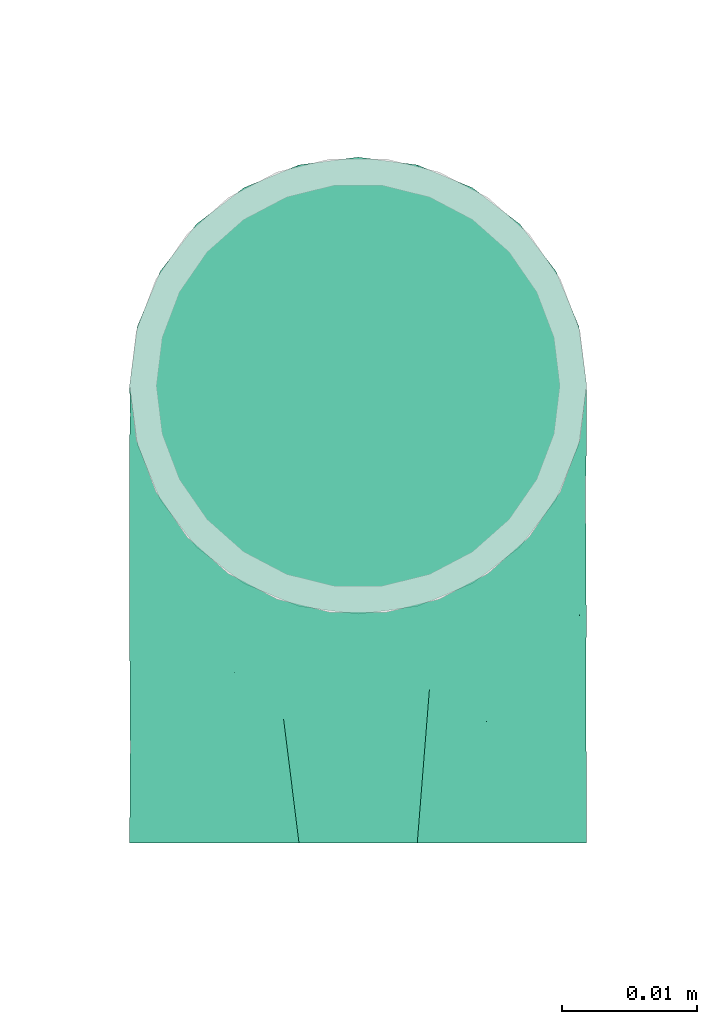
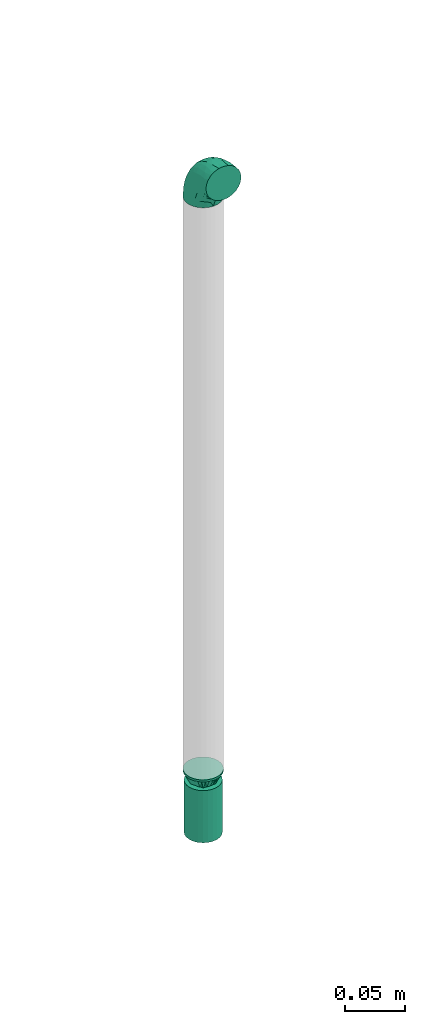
# One storey, part 32 of 94: 2 flow fittings, 1 flow terminal.
"""IFC2X3 building model written with IfcOpenShell, lengths in millimetres."""

from ifc_helpers import new_model, entity, si_unit, converted_unit, derived_unit, direction, frame, origin_with_axes, place, context, subcontext, project, spatial, open_shell, surface_model, source, transform, mapped, type_object, element, save


model = new_model("IFC2X3")

# Units and contexts
model_context = context("Model", 3, precision=0.01, world=frame((0.0, 4.29681676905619e-09, 0.0)), true_north=direction((4.01073788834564e-13, 1.0)))
plan_context = context("Plan", 3, precision=0.01, world=frame((0.0, 4.29681676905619e-09, 0.0)), true_north=direction((4.01073788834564e-13, 1.0)))
body_context = subcontext(model_context, "Body", "Model", "MODEL_VIEW")
ifc_project = project(units=[converted_unit("PLANEANGLEUNIT", "DEGREE", entity("IfcPositiveLengthMeasure", 0.0174532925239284), si_unit("PLANEANGLEUNIT", "RADIAN"), dimensions=[0, 0, 0, 0, 0, 0, 0]), si_unit("AREAUNIT", "SQUARE_METRE"), si_unit("LENGTHUNIT", "METRE", prefix="MILLI"), si_unit("MASSUNIT", "GRAM", prefix="KILO"), si_unit("POWERUNIT", "WATT"), si_unit("PRESSUREUNIT", "PASCAL", prefix="KILO"), si_unit("FORCEUNIT", "NEWTON", prefix="KILO"), si_unit("ELECTRICVOLTAGEUNIT", "VOLT"), si_unit("ELECTRICCURRENTUNIT", "AMPERE"), si_unit("THERMODYNAMICTEMPERATUREUNIT", "DEGREE_CELSIUS"), si_unit("TIMEUNIT", "SECOND"), si_unit("VOLUMEUNIT", "CUBIC_METRE"), derived_unit("LINEARVELOCITYUNIT", [(si_unit("LENGTHUNIT", "METRE"), 1), (si_unit("TIMEUNIT", "SECOND"), -1)]), derived_unit("VOLUMETRICFLOWRATEUNIT", [(si_unit("VOLUMEUNIT", "CUBIC_METRE"), 1), (si_unit("TIMEUNIT", "SECOND"), -1)]), derived_unit("THERMALTRANSMITTANCEUNIT", [(si_unit("POWERUNIT", "WATT"), 1), (si_unit("THERMODYNAMICTEMPERATUREUNIT", "KELVIN"), -1), (si_unit("AREAUNIT", "SQUARE_METRE"), -1)]), derived_unit("SOUNDPRESSUREUNIT", [(si_unit("PRESSUREUNIT", "PASCAL"), 1)])], contexts=[model_context, plan_context])

# Site, building, storey
site_placement = place(None, frame((0.0, -4.29681676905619e-09, 0.0), z_axis=(0.0, 0.0, 1.0), x_axis=(1.0, 0.0, 0.0)))
site = spatial("IfcSite", under=ifc_project, at=site_placement, CompositionType="ELEMENT")
building_placement = place(site_placement, frame((0.0, 4.29681676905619e-09, 0.0), z_axis=(0.0, 0.0, 1.0), x_axis=(1.0, 0.0, 0.0)))
building = spatial("IfcBuilding", under=site, at=building_placement, Name="mc-building", CompositionType="ELEMENT")
storey_placement = place(building_placement, frame((0.0, 0.0, 210900.0), z_axis=(0.0, 0.0, 1.0), x_axis=(1.0, 0.0, 0.0)))
storey = spatial("IfcBuildingStorey", under=building, at=storey_placement, Name="Nivå F", CompositionType="ELEMENT", Elevation=210900.0)

# Flow fittings
pipe_fitting_type_1 = type_object("IfcPipeFittingType", Name="magi_pipe_fe_elbow_short_001", PredefinedType="BEND")
shared_shape_1 = source(origin_with_axes(), body_context, "Body", "SurfaceModel", [
    surface_model("IfcShellBasedSurfaceModel", [(-33.8, 8.45, -14.63583), (-33.8, 4.37404, -16.32415), (-33.8, 11.9501, -11.9501), (-33.8, -11.9501, -11.9501), (-33.8, -14.63583, -8.45), (-33.8, -8.45, -14.63583), (-33.8, 0.0, -16.9), (-33.8, -4.37404, -16.32415), (-33.8, -4.37404, 16.32415), (-33.8, 0.0, 16.9), (-33.8, -8.45, 14.63583), (-33.8, 16.32415, -4.37404), (-33.8, 14.63583, -8.45), (-33.8, -16.32415, -4.37404), (-33.8, -16.9, 0.0), (-33.8, -16.32415, 4.37404), (-33.8, 11.9501, 11.9501), (-33.8, 14.63583, 8.45), (-33.8, 16.32415, 4.37404), (-33.8, 4.37404, 16.32415), (-33.8, 8.45, 14.63583), (-33.8, -14.63583, 8.45), (-33.8, -11.9501, 11.9501), (-33.8, 16.9, 0.0), (-11.9501, 33.8, -11.9501), (0.0, 33.8, -16.9), (-4.37404, 33.8, -16.32415), (-8.45, 33.8, -14.63583), (-14.63583, 33.8, -8.45), (-16.32415, 33.8, -4.37404), (14.63583, 33.8, -8.45), (8.45, 33.8, 14.63583), (16.32415, 33.8, -4.37404), (8.45, 33.8, -14.63583), (11.9501, 33.8, -11.9501), (4.37404, 33.8, -16.32415), (16.32415, 33.8, 4.37404), (16.9, 33.8, 0.0), (-11.9501, 33.8, 11.9501), (-16.32415, 33.8, 4.37404), (-14.63583, 33.8, 8.45), (-8.45, 33.8, 14.63583), (-4.37404, 33.8, 16.32415), (11.9501, 33.8, 11.9501), (14.63583, 33.8, 8.45), (0.0, 33.8, 16.9), (4.37404, 33.8, 16.32415), (-16.9, 33.8, 0.0), (-24.79389, -13.12945, 9.48721), (-22.19287, -9.75018, 12.59315), (-24.09897, -14.97035, 0.0), (-14.93934, -10.76256, 8.5297), (-22.46095, -14.75051, 5.27077), (14.75051, 22.46094, 5.27077), (11.9251, 13.23888, 4.33236), (13.04069, 14.39795, 0.0), (7.71387, 13.68847, 11.55891), (9.75018, 22.19287, 12.59315), (4.10169, 13.0571, 14.04018), (-24.84007, -6.39063, 15.2048), (-25.81779, -2.23879, 16.61097), (-23.66549, 2.59054, 16.87119), (-26.50418, 14.06512, 11.08152), (-24.21253, 17.66365, 7.72657), (-29.58514, 15.86957, 7.00283), (-6.17382, -7.5455, 0.0), (-13.23888, -11.9251, 4.33236), (-14.39795, -13.04069, 0.0), (-17.81434, 18.87373, 11.97104), (-6.30846, 29.15138, 15.82987), (-2.31622, 25.28002, 16.85849), (-29.23923, 10.23435, 13.77053), (-1.45439, -2.85688, 7.61475), (-0.28326, 0.34872, 10.09509), (-5.74484, -4.04709, 10.4122), (-4.41137, 11.31918, 16.59407), (-8.39727, 3.10034, 15.7812), (-1.72649, 9.1306, 15.53089), (-17.39909, 24.75344, 7.64977), (-26.19233, 20.0512, 0.0), (-28.14518, 17.29657, 4.25857), (-26.05147, 6.6281, 15.96447), (-5.87354, 16.61944, 16.86968), (-12.51807, 12.51807, 16.48937), (-10.06312, 7.38516, 16.81295), (-3.01882, 3.01882, 13.81718), (-13.0571, -4.10169, 14.04018), (-16.82553, -0.15166, 16.38038), (10.76256, 14.93934, 8.5297), (13.12945, 24.79389, 9.48721), (6.39063, 24.84007, 15.2048), (2.23879, 25.81779, 16.61097), (-13.68847, -7.71387, 11.55891), (14.97035, 24.09897, 0.0), (-7.30894, 22.89991, 16.09489), (-10.67958, 26.17414, 14.008), (-12.78295, 18.26924, 15.06066), (-13.88562, 22.45231, 12.93244), (-18.04944, 15.16501, 14.04434), (-23.11658, 20.08178, 4.02986), (-21.84989, 21.84989, 0.0), (-18.55817, 25.48277, 3.93065), (-13.95142, 26.94732, 11.03289), (-18.57098, 7.23906, 16.59756), (-16.58335, 4.14122, 16.89279), (-17.96666, 11.46709, 15.63151), (-9.84453, 17.54304, 16.18938), (0.15166, 16.82553, 16.38038), (-23.27207, 11.47201, 14.23154), (3.84842, 5.86994, 10.70473), (-8.0212, -7.54413, 7.93275), (1.00345, -2.19508, 4.57414), (5.13203, 3.01004, 5.90201), (5.24161, 1.7543, 2.53265), (8.70457, 7.04947, 3.99182), (-20.0512, 26.19233, 0.0), (8.4852, 8.76699, 7.09296), (-4.55488, -6.72064, 4.90681), (2.05031, -2.05031, 0.0), (7.5455, 6.17382, 0.0), (-26.75399, 2.1369, -16.845), (-14.61995, 24.73803, -11.27736), (-28.45274, -13.45335, -9.81895), (-26.00469, 6.63555, -15.96645), (-23.06726, 20.04573, -4.26202), (-13.80647, -4.26506, -14.17873), (-14.67501, -0.21081, -16.07388), (-6.7902, -0.2828, -13.8478), (-24.53586, 11.08096, -14.13417), (-26.72048, 14.00837, -11.05776), (10.0967, 24.44989, -12.75976), (5.83237, 21.40218, -15.03047), (6.66249, 28.54238, -15.38093), (-20.38182, 15.48705, -12.74596), (12.53268, 21.23441, -9.15363), (12.54494, 15.67504, -5.54878), (9.7522, 12.89279, -8.66343), (-15.65186, 19.64213, -13.01327), (-12.03528, 20.66498, -14.67665), (-15.61907, 15.61906, -14.83879), (-25.56551, -15.26206, 0.0), (-24.65452, -15.12934, -5.50955), (13.45335, 28.45274, -9.81895), (15.12934, 24.65452, -5.50955), (-7.35442, -8.31014, -5.65563), (-15.67504, -12.54494, -5.54878), (-24.44989, -10.0967, -12.75976), (0.16522, 0.41303, -9.71728), (-5.70658, -5.33066, -8.89288), (-5.13869, -2.37198, -11.53565), (-21.23441, -12.53268, -9.15363), (0.71146, 7.93863, -14.09382), (0.21081, 14.67501, -16.07388), (3.49291, 14.42772, -14.76381), (-24.89911, -2.13088, -16.591), (-28.54238, -6.66249, -15.38093), (-18.44386, -7.71663, -13.26957), (2.13088, 24.89911, -16.591), (-28.64342, 17.44413, -2.89318), (1.70017, -1.28722, -5.09504), (-16.57067, 26.81947, -7.36596), (-17.69055, 27.4263, -3.76405), (-12.89279, -9.7522, -8.66343), (-5.96611, 5.96611, -15.95814), (-20.53709, 20.09345, -8.28985), (-2.1369, 26.75399, -16.845), (-6.89872, 24.58781, -16.02578), (-10.60739, 26.53157, -13.98044), (-21.40218, -5.83237, -15.03047), (2.93192, 5.89627, -11.55917), (6.89393, 12.61842, -11.82233), (5.58056, 5.95325, -8.79455), (-3.99512, 18.61798, -16.89635), (8.31014, 7.35442, -5.65563), (-9.1383, 9.86148, -16.89041), (-9.99983, 16.02119, -16.39699), (-16.68576, 9.78031, -16.34199), (-27.01915, 16.61158, -7.12979), (15.26206, 25.56551, 0.0), (-18.61798, 3.99512, -16.89635), (-19.37495, 27.82495, 0.0), (-12.61842, -6.89393, -11.82233), (-18.84705, 19.14018, -10.96545)], [open_shell([[[0, 1, 2]], [[3, 4, 5]], [[6, 7, 5]], [[8, 9, 10]], [[1, 6, 2]], [[11, 12, 2]], [[4, 2, 6]], [[2, 13, 10]], [[5, 4, 6]], [[2, 4, 13]], [[14, 15, 13]], [[11, 2, 16]], [[11, 17, 18]], [[11, 16, 17]], [[19, 20, 16]], [[16, 2, 10]], [[19, 16, 10]], [[21, 22, 15]], [[22, 13, 15]], [[22, 10, 13]], [[10, 9, 19]], [[11, 18, 23]], [[24, 25, 26]], [[24, 26, 27]], [[24, 28, 29]], [[25, 24, 30]], [[31, 32, 24]], [[33, 30, 34]], [[33, 35, 25]], [[25, 30, 33]], [[32, 30, 24]], [[32, 36, 37]], [[38, 24, 29]], [[39, 40, 29]], [[40, 38, 29]], [[38, 41, 42]], [[38, 31, 24]], [[31, 38, 42]], [[36, 43, 44]], [[36, 32, 43]], [[31, 45, 46]], [[32, 31, 43]], [[42, 45, 31]], [[39, 29, 47]], [[22, 48, 49]], [[15, 14, 50]], [[51, 48, 52]], [[53, 54, 55]], [[48, 22, 21]], [[15, 52, 21]], [[56, 57, 58]], [[49, 10, 22]], [[49, 59, 10]], [[9, 60, 61]], [[62, 63, 64]], [[65, 66, 67]], [[57, 43, 31]], [[62, 68, 63]], [[42, 69, 70]], [[20, 71, 16]], [[8, 60, 9]], [[72, 73, 74]], [[75, 76, 77]], [[16, 62, 17]], [[40, 39, 78]], [[79, 23, 80]], [[64, 18, 17]], [[9, 61, 19]], [[19, 81, 20]], [[82, 83, 84]], [[74, 85, 86]], [[59, 86, 87]], [[88, 89, 57]], [[90, 31, 46]], [[44, 53, 36]], [[46, 45, 91]], [[54, 53, 88]], [[44, 89, 53]], [[92, 86, 49]], [[89, 44, 43]], [[10, 59, 8]], [[53, 55, 93]], [[93, 36, 53]], [[66, 52, 67]], [[94, 82, 70]], [[95, 96, 94]], [[97, 98, 96]], [[79, 99, 100]], [[41, 38, 95]], [[101, 100, 99]], [[68, 78, 63]], [[42, 41, 69]], [[23, 18, 80]], [[95, 94, 69]], [[78, 101, 99]], [[38, 102, 95]], [[70, 45, 42]], [[97, 95, 102]], [[15, 50, 52]], [[90, 57, 31]], [[57, 90, 58]], [[81, 19, 61]], [[103, 104, 84]], [[105, 81, 103]], [[38, 40, 102]], [[106, 96, 83]], [[94, 106, 82]], [[91, 70, 107]], [[71, 62, 16]], [[62, 108, 98]], [[86, 59, 49]], [[67, 52, 50]], [[60, 59, 87]], [[92, 49, 51]], [[86, 85, 76]], [[91, 90, 46]], [[37, 36, 93]], [[107, 77, 58]], [[107, 58, 90]], [[58, 85, 109]], [[110, 74, 92]], [[72, 74, 110]], [[66, 51, 52]], [[72, 111, 112]], [[113, 114, 112]], [[56, 88, 57]], [[52, 48, 21]], [[49, 48, 51]], [[57, 89, 43]], [[53, 89, 88]], [[103, 81, 61]], [[71, 81, 108]], [[18, 64, 80]], [[63, 78, 99]], [[47, 115, 101]], [[101, 115, 100]], [[40, 78, 102]], [[68, 102, 78]], [[97, 96, 95]], [[105, 98, 108]], [[103, 84, 83]], [[107, 70, 82]], [[76, 84, 87]], [[82, 84, 75]], [[70, 91, 45]], [[90, 91, 107]], [[59, 60, 8]], [[61, 60, 87]], [[73, 85, 74]], [[109, 112, 116]], [[103, 61, 104]], [[105, 103, 83]], [[96, 105, 83]], [[81, 105, 108]], [[96, 98, 105]], [[62, 98, 68]], [[61, 87, 104]], [[87, 84, 104]], [[86, 76, 87]], [[77, 76, 85]], [[58, 77, 85]], [[75, 77, 107]], [[82, 75, 107]], [[76, 75, 84]], [[81, 71, 20]], [[62, 71, 108]], [[95, 69, 41]], [[70, 69, 94]], [[62, 64, 17]], [[80, 63, 99]], [[63, 80, 64]], [[80, 99, 79]], [[66, 65, 117]], [[110, 66, 117]], [[112, 114, 116]], [[118, 117, 65]], [[110, 92, 51]], [[112, 111, 113]], [[119, 55, 54]], [[74, 86, 92]], [[58, 109, 56]], [[116, 56, 109]], [[66, 110, 51]], [[72, 110, 117]], [[111, 72, 117]], [[73, 112, 109]], [[117, 118, 111]], [[113, 111, 118]], [[118, 119, 113]], [[114, 119, 54]], [[119, 114, 113]], [[116, 54, 88]], [[54, 116, 114]], [[116, 88, 56]], [[112, 73, 72]], [[85, 73, 109]], [[78, 39, 101]], [[47, 101, 39]], [[102, 68, 97]], [[97, 68, 98]], [[82, 106, 83]], [[94, 96, 106]], [[1, 120, 6]], [[28, 24, 121]], [[3, 122, 4]], [[0, 123, 1]], [[100, 124, 79]], [[125, 126, 127]], [[128, 2, 129]], [[130, 131, 132]], [[128, 129, 133]], [[134, 135, 136]], [[137, 138, 139]], [[128, 0, 2]], [[67, 140, 141]], [[134, 142, 143]], [[141, 13, 4]], [[144, 65, 145]], [[146, 3, 5]], [[147, 148, 149]], [[145, 141, 150]], [[151, 152, 153]], [[154, 7, 6]], [[5, 155, 146]], [[150, 146, 156]], [[155, 5, 7]], [[143, 135, 134]], [[35, 157, 25]], [[23, 79, 158]], [[148, 159, 144]], [[160, 161, 29]], [[145, 162, 144]], [[163, 152, 151]], [[29, 28, 160]], [[121, 164, 160]], [[33, 34, 130]], [[25, 165, 26]], [[26, 165, 166]], [[142, 34, 30]], [[24, 27, 167]], [[124, 161, 164]], [[157, 35, 132]], [[155, 154, 168]], [[123, 0, 128]], [[169, 170, 171]], [[172, 157, 152]], [[26, 166, 27]], [[132, 35, 33]], [[142, 130, 34]], [[168, 154, 126]], [[136, 135, 173]], [[133, 137, 139]], [[2, 12, 129]], [[170, 131, 130]], [[30, 32, 143]], [[172, 174, 175]], [[176, 123, 128]], [[158, 177, 11]], [[135, 55, 119]], [[167, 27, 166]], [[175, 166, 172]], [[137, 167, 138]], [[122, 141, 4]], [[140, 14, 13]], [[32, 37, 178]], [[170, 130, 134]], [[152, 157, 131]], [[165, 157, 172]], [[153, 170, 151]], [[152, 163, 174]], [[168, 125, 156]], [[122, 146, 150]], [[120, 154, 6]], [[179, 174, 126]], [[179, 126, 154]], [[126, 163, 127]], [[162, 145, 150]], [[140, 13, 141]], [[32, 178, 143]], [[55, 143, 178]], [[177, 129, 12]], [[128, 133, 139]], [[176, 128, 139]], [[120, 123, 179]], [[121, 160, 28]], [[161, 100, 180]], [[166, 175, 138]], [[121, 24, 167]], [[161, 47, 29]], [[79, 124, 158]], [[124, 164, 177]], [[161, 124, 100]], [[136, 171, 170]], [[127, 163, 151]], [[147, 171, 159]], [[148, 144, 162]], [[127, 151, 169]], [[127, 181, 125]], [[129, 177, 164]], [[12, 11, 177]], [[159, 65, 144]], [[67, 141, 145]], [[143, 55, 135]], [[135, 119, 173]], [[123, 120, 1]], [[154, 120, 179]], [[157, 165, 25]], [[166, 165, 172]], [[172, 152, 174]], [[176, 139, 175]], [[126, 174, 163]], [[176, 174, 179]], [[174, 176, 175]], [[123, 176, 179]], [[150, 181, 162]], [[127, 149, 181]], [[181, 148, 162]], [[159, 148, 147]], [[171, 136, 173]], [[170, 134, 136]], [[159, 171, 173]], [[171, 147, 169]], [[169, 147, 149]], [[151, 170, 169]], [[164, 182, 129]], [[182, 121, 137]], [[181, 149, 148]], [[169, 149, 127]], [[182, 137, 133]], [[167, 137, 121]], [[166, 138, 167]], [[175, 139, 138]], [[129, 182, 133]], [[121, 182, 164]], [[161, 160, 164]], [[47, 161, 180]], [[177, 158, 124]], [[23, 158, 11]], [[130, 132, 33]], [[157, 132, 131]], [[143, 142, 30]], [[130, 142, 134]], [[154, 155, 7]], [[146, 155, 168]], [[146, 122, 3]], [[141, 122, 150]], [[152, 131, 153]], [[159, 119, 118]], [[67, 145, 65]], [[170, 153, 131]], [[119, 159, 173]], [[159, 118, 65]], [[156, 125, 181]], [[126, 125, 168]], [[150, 156, 181]], [[168, 156, 146]]])]),
])
flow_fitting_1_placement = place(storey_placement, frame((722000.0, 436200.0, 3423.42494), z_axis=(1.0, 0.0, 0.0), x_axis=(0.0, 0.0, 1.0)))
element("IfcFlowFitting", 1, at=flow_fitting_1_placement, inside=storey, type_object=pipe_fitting_type_1, Name="magi_pipe_fe_elbow_short_001", context=body_context, shape_type="MappedRepresentation", body=[
    mapped(shared_shape_1, transform((0.0, 0.0, 0.0), scale=1.0)),
])
pipe_fitting_type_2 = type_object("IfcPipeFittingType", Name="magi_pipe_fe_reducer_centric_short_NOR", PredefinedType="TRANSITION")
shared_shape_2 = source(origin_with_axes(), body_context, "Body", "SurfaceModel", [
    surface_model("IfcShellBasedSurfaceModel", [(-2.0, -7.56604, -7.56604), (-2.0, -10.33541, -2.76936), (-2.0, -5.35, -9.26647), (-2.0, 5.35, -9.26647), (-2.0, 10.33541, -2.76936), (-2.0, 7.56604, -7.56604), (12.4, 11.9501, 11.9501), (12.4, 0.0, 16.9), (12.4, 11.9501, -11.9501), (12.4, 16.9, 0.0), (0.0, -10.7, 0.0), (0.0, -5.35, 9.26647), (0.0, -5.35, -9.26647), (0.0, 10.7, 0.0), (12.4, 15.66253, -2.98753), (12.4, 8.96258, -13.18758), (0.0, 6.6875, -6.94985), (12.4, -15.66253, -2.98753), (12.4, -16.9, 0.0), (12.4, 5.97505, -14.42505), (0.0, 5.35, -9.26647), (12.4, 14.42505, -5.97505), (0.0, 8.025, -4.63324), (0.0, 9.3625, -2.31662), (0.0, -9.3625, -2.31662), (0.0, -8.025, -4.63324), (12.4, -14.42505, -5.97505), (12.4, 13.18758, -8.96258), (12.4, -13.18758, -8.96258), (12.4, -11.9501, -11.9501), (0.0, -6.6875, -6.94985), (12.4, -8.96258, -13.18758), (12.4, -5.97505, -14.42505), (12.4, -15.66253, 2.98753), (12.4, -8.96258, 13.18758), (0.0, -6.6875, 6.94985), (12.4, -11.9501, 11.9501), (12.4, 15.66253, 2.98753), (12.4, -5.97505, 14.42505), (12.4, -14.42505, 5.97505), (0.0, -8.025, 4.63324), (0.0, -9.3625, 2.31662), (0.0, 9.3625, 2.31662), (0.0, 8.025, 4.63324), (12.4, 14.42505, 5.97505), (12.4, -13.18758, 8.96258), (12.4, 13.18758, 8.96258), (0.0, 6.6875, 6.94985), (12.4, 8.96258, 13.18758), (0.0, 5.35, 9.26647), (12.4, 5.97505, 14.42505), (14.4, 4.37404, -16.32415), (14.4, 8.45, -14.63583), (14.4, 11.9501, -11.9501), (14.4, -8.45, -14.63583), (14.4, 16.32415, -4.37404), (14.4, 16.32415, 4.37404), (14.4, 14.63583, -8.45), (14.4, 0.0, -16.9), (14.4, -4.37404, -16.32415), (14.4, -11.9501, -11.9501), (14.4, -16.32415, -4.37404), (14.4, -14.63583, -8.45), (14.4, -16.32415, 4.37404), (14.4, 16.9, 0.0), (14.4, 14.63583, 8.45), (14.4, 11.9501, 11.9501), (14.4, 4.37404, 16.32415), (14.4, 8.45, 14.63583), (14.4, 0.0, 16.9), (14.4, -14.63583, 8.45), (14.4, -16.9, 0.0), (14.4, -8.45, 14.63583), (14.4, -11.9501, 11.9501), (14.4, -4.37404, 16.32415), (12.4, 4.37404, 16.32415), (12.4, -14.63583, 8.45), (12.4, 16.32415, 4.37404), (12.4, 8.45, 14.63583), (12.4, 14.63583, 8.45), (12.4, -8.45, 14.63583), (12.4, -4.37404, 16.32415), (12.4, -16.32415, 4.37404), (12.4, -16.32415, -4.37404), (12.4, -8.45, -14.63583), (12.4, 16.32415, -4.37404), (12.4, 14.63583, -8.45), (12.4, 8.45, -14.63583), (12.4, 4.37404, -16.32415), (12.4, 0.0, -16.9), (12.4, -14.63583, -8.45), (12.4, -4.37404, -16.32415), (-2.0, 2.76936, 10.33541), (-2.0, 0.0, 10.7), (-2.0, 5.35, 9.26647), (-2.0, 7.56604, 7.56604), (-2.0, 9.26647, 5.35), (-2.0, 10.33541, 2.76936), (-2.0, -10.33541, 2.76936), (-2.0, -2.76936, 10.33541), (-2.0, -7.56604, 7.56604), (-2.0, -5.35, 9.26647), (-2.0, -9.26647, 5.35), (-2.0, -10.7, 0.0), (-2.0, 9.26647, -5.35), (-2.0, 2.76936, -10.33541), (-2.0, -9.26647, -5.35), (-2.0, 0.0, -10.7), (-2.0, -2.76936, -10.33541), (-2.0, 10.7, 0.0), (0.0, 0.0, -10.7), (0.0, 2.76936, -10.33541), (0.0, 10.33541, -2.76936), (0.0, 7.56604, -7.56604), (0.0, -10.33541, -2.76936), (0.0, 9.26647, -5.35), (0.0, 0.0, 10.7), (0.0, -2.76936, -10.33541), (0.0, -7.56604, -7.56604), (0.0, -9.26647, -5.35), (0.0, 10.33541, 2.76936), (0.0, 9.26647, 5.35), (0.0, 7.56604, 7.56604), (0.0, 2.76936, 10.33541), (0.0, -7.56604, 7.56604), (0.0, -10.33541, 2.76936), (0.0, -9.26647, 5.35), (0.0, -2.76936, 10.33541), (0.0, 2.675, -9.26647), (0.0, -2.675, -9.26647), (12.4, 2.98753, -15.66253), (0.0, 0.0, -9.26647), (12.4, -2.98753, -15.66253), (0.0, -2.675, 9.26647), (0.0, 2.675, 9.26647), (12.4, -2.98753, 15.66253), (0.0, 0.0, 9.26647), (12.4, 2.98753, 15.66253)], [open_shell([[[0, 1, 2]], [[3, 4, 5]], [[6, 7, 8]], [[8, 9, 6]], [[10, 11, 12]], [[13, 9, 14]], [[15, 16, 8]], [[17, 18, 10]], [[15, 19, 20]], [[21, 22, 23]], [[24, 25, 26]], [[22, 21, 27]], [[28, 26, 25]], [[29, 30, 31]], [[12, 32, 31]], [[10, 18, 33]], [[34, 35, 36]], [[37, 9, 13]], [[34, 38, 11]], [[39, 40, 41]], [[42, 43, 44]], [[40, 39, 45]], [[46, 44, 43]], [[6, 47, 48]], [[49, 50, 48]], [[51, 52, 53]], [[54, 51, 53]], [[53, 55, 56]], [[55, 53, 57]], [[53, 56, 54]], [[58, 54, 59]], [[58, 51, 54]], [[60, 61, 62]], [[61, 60, 54]], [[54, 63, 61]], [[56, 55, 64]], [[56, 65, 66]], [[56, 66, 67]], [[67, 63, 54]], [[67, 66, 68]], [[63, 67, 69]], [[69, 70, 63]], [[71, 61, 63]], [[70, 72, 73]], [[70, 69, 72]], [[72, 69, 74]], [[54, 56, 67]], [[75, 76, 7]], [[77, 75, 78]], [[6, 79, 77]], [[6, 77, 78]], [[76, 75, 77]], [[80, 76, 36]], [[80, 81, 7]], [[7, 76, 80]], [[82, 76, 77]], [[82, 83, 18]], [[82, 77, 84]], [[77, 85, 8]], [[8, 85, 86]], [[8, 87, 88]], [[84, 77, 8]], [[88, 89, 8]], [[83, 29, 90]], [[29, 83, 84]], [[84, 89, 91]], [[83, 82, 84]], [[8, 89, 84]], [[85, 77, 9]], [[83, 61, 18]], [[90, 62, 83]], [[54, 29, 84]], [[90, 29, 60]], [[59, 84, 91]], [[83, 62, 61]], [[61, 71, 18]], [[59, 54, 84]], [[60, 29, 54]], [[60, 62, 90]], [[58, 59, 91]], [[91, 89, 58]], [[88, 51, 89]], [[87, 52, 88]], [[57, 8, 86]], [[87, 8, 53]], [[55, 86, 85]], [[87, 53, 52]], [[52, 51, 88]], [[64, 55, 85]], [[57, 86, 55]], [[57, 53, 8]], [[9, 64, 85]], [[89, 51, 58]], [[77, 56, 9]], [[79, 65, 77]], [[68, 6, 78]], [[79, 6, 66]], [[67, 78, 75]], [[77, 65, 56]], [[56, 64, 9]], [[67, 68, 78]], [[66, 6, 68]], [[66, 65, 79]], [[69, 67, 75]], [[75, 7, 69]], [[81, 74, 7]], [[80, 72, 81]], [[70, 36, 76]], [[80, 36, 73]], [[63, 76, 82]], [[80, 73, 72]], [[72, 74, 81]], [[71, 63, 82]], [[70, 76, 63]], [[70, 73, 36]], [[18, 71, 82]], [[7, 74, 69]], [[92, 1, 93]], [[94, 1, 92]], [[95, 96, 97]], [[95, 97, 94]], [[98, 93, 1]], [[99, 100, 101]], [[99, 93, 100]], [[100, 98, 102]], [[93, 98, 100]], [[98, 1, 103]], [[94, 97, 1]], [[1, 97, 4]], [[5, 4, 104]], [[4, 3, 1]], [[105, 1, 3]], [[1, 0, 106]], [[2, 107, 108]], [[2, 1, 105]], [[105, 107, 2]], [[4, 97, 109]], [[20, 110, 111]], [[112, 20, 113]], [[114, 20, 112]], [[112, 113, 115]], [[116, 114, 112]], [[110, 12, 117]], [[110, 20, 12]], [[118, 114, 119]], [[114, 118, 12]], [[20, 114, 12]], [[112, 13, 120]], [[120, 121, 122]], [[120, 122, 123]], [[116, 112, 123]], [[123, 122, 49]], [[116, 124, 114]], [[125, 124, 126]], [[10, 114, 125]], [[124, 127, 11]], [[125, 114, 124]], [[127, 124, 116]], [[123, 112, 120]], [[1, 114, 103]], [[106, 119, 1]], [[12, 0, 2]], [[106, 0, 118]], [[117, 2, 108]], [[1, 119, 114]], [[114, 10, 103]], [[117, 12, 2]], [[118, 0, 12]], [[118, 119, 106]], [[110, 117, 108]], [[108, 107, 110]], [[105, 111, 107]], [[3, 20, 105]], [[115, 5, 104]], [[3, 5, 113]], [[112, 104, 4]], [[3, 113, 20]], [[20, 111, 105]], [[13, 112, 4]], [[115, 104, 112]], [[115, 113, 5]], [[109, 13, 4]], [[107, 111, 110]], [[97, 120, 109]], [[96, 121, 97]], [[49, 95, 94]], [[96, 95, 122]], [[123, 94, 92]], [[97, 121, 120]], [[120, 13, 109]], [[123, 49, 94]], [[122, 95, 49]], [[122, 121, 96]], [[116, 123, 92]], [[92, 93, 116]], [[99, 127, 93]], [[101, 11, 99]], [[126, 100, 102]], [[101, 100, 124]], [[125, 102, 98]], [[101, 124, 11]], [[11, 127, 99]], [[10, 125, 98]], [[126, 102, 125]], [[126, 124, 100]], [[103, 10, 98]], [[93, 127, 116]], [[18, 7, 36]], [[18, 29, 8]], [[89, 8, 29]], [[18, 8, 7]], [[13, 11, 49]], [[13, 20, 12]], [[13, 12, 11]], [[24, 26, 17]], [[10, 24, 17]], [[16, 15, 20]], [[30, 12, 31]], [[23, 14, 21]], [[19, 128, 20]], [[27, 8, 16]], [[32, 12, 129]], [[30, 28, 25]], [[130, 131, 128]], [[129, 132, 32]], [[16, 22, 27]], [[13, 14, 23]], [[128, 19, 130]], [[130, 89, 131]], [[131, 132, 129]], [[89, 132, 131]], [[28, 30, 29]], [[42, 44, 37]], [[13, 42, 37]], [[35, 34, 11]], [[47, 49, 48]], [[41, 33, 39]], [[38, 133, 11]], [[45, 36, 35]], [[50, 49, 134]], [[47, 46, 43]], [[135, 136, 133]], [[134, 137, 50]], [[35, 40, 45]], [[10, 33, 41]], [[133, 38, 135]], [[135, 7, 136]], [[136, 137, 134]], [[7, 137, 136]], [[46, 47, 6]]])]),
])
flow_fitting_2_placement = place(storey_placement, frame((722000.0, 436200.0, 2794.49074000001), z_axis=(0.0, 1.0, 0.0), x_axis=(0.0, 0.0, 1.0)))
element("IfcFlowFitting", 2, at=flow_fitting_2_placement, inside=storey, type_object=pipe_fitting_type_2, Name="magi_pipe_fe_reducer_centric_short_NOR", context=body_context, shape_type="MappedRepresentation", body=[
    mapped(shared_shape_2, transform((0.0, 0.0, 0.0), scale=1.0)),
])

# Flow terminal
fire_suppression_terminal_type = type_object("IfcFireSuppressionTerminalType", Name="SP-15-K80-68DGR-STD-HIMLING", PredefinedType="NOTDEFINED")
shared_shape_3 = source(origin_with_axes(), body_context, "Body", "SurfaceModel", [
    surface_model("IfcShellBasedSurfaceModel", [(4.1411, -15.45481, 53.0), (8.0, -13.85641, 53.0), (11.31371, -11.31371, 53.0), (-8.0, -13.85641, 53.0), (15.45481, -4.1411, 53.0), (16.0, 0.0, 53.0), (13.85641, -8.0, 53.0), (0.0, -16.0, 53.0), (-4.1411, -15.45481, 53.0), (-13.85641, -8.0, 53.0), (-11.31371, -11.31371, 53.0), (-15.45481, -4.1411, 53.0), (15.45481, 4.1411, 53.0), (13.85641, 8.0, 53.0), (11.31371, 11.31371, 53.0), (-4.1411, 15.45481, 53.0), (8.0, 13.85641, 53.0), (4.1411, 15.45481, 53.0), (0.0, 16.0, 53.0), (-13.85641, 8.0, 53.0), (-15.45481, 4.1411, 53.0), (-16.0, 0.0, 53.0), (-11.31371, 11.31371, 53.0), (-8.0, 13.85641, 53.0), (0.0, 16.0, 0.0), (4.1411, 15.45481, 0.0), (8.0, 13.85641, 0.0), (-4.1411, 15.45481, 0.0), (11.31371, 11.31371, 0.0), (13.85641, 8.0, 0.0), (15.45481, 4.1411, 0.0), (-15.45481, -4.1411, 0.0), (-11.31371, 11.31371, 0.0), (-8.0, 13.85641, 0.0), (-13.85641, 8.0, 0.0), (-15.45481, 4.1411, 0.0), (-16.0, 0.0, 0.0), (4.1411, -15.45481, 0.0), (16.0, 0.0, 0.0), (15.45481, -4.1411, 0.0), (13.85641, -8.0, 0.0), (11.31371, -11.31371, 0.0), (8.0, -13.85641, 0.0), (-8.0, -13.85641, 0.0), (-13.85641, -8.0, 0.0), (-11.31371, -11.31371, 0.0), (0.0, -16.0, 0.0), (-4.1411, -15.45481, 0.0)], [open_shell([[[0, 1, 2]], [[3, 0, 2]], [[4, 5, 2]], [[4, 2, 6]], [[3, 2, 5]], [[7, 3, 8]], [[7, 0, 3]], [[3, 9, 10]], [[9, 3, 11]], [[5, 11, 3]], [[5, 12, 11]], [[12, 13, 14]], [[15, 12, 14]], [[16, 17, 18]], [[14, 16, 15]], [[18, 15, 16]], [[11, 19, 20]], [[21, 11, 20]], [[22, 15, 23]], [[15, 22, 19]], [[19, 11, 15]], [[11, 12, 15]], [[24, 25, 26]], [[27, 24, 26]], [[28, 29, 30]], [[27, 26, 28]], [[27, 28, 31]], [[27, 32, 33]], [[32, 27, 34]], [[34, 31, 35]], [[31, 34, 27]], [[35, 31, 36]], [[28, 30, 31]], [[37, 38, 39]], [[37, 39, 40]], [[41, 42, 37]], [[41, 37, 40]], [[38, 37, 43]], [[44, 43, 45]], [[43, 44, 31]], [[43, 46, 47]], [[43, 31, 38]], [[37, 46, 43]], [[38, 31, 30]], [[11, 31, 44]], [[45, 9, 44]], [[3, 43, 47]], [[45, 43, 10]], [[8, 47, 46]], [[31, 21, 36]], [[31, 11, 21]], [[44, 9, 11]], [[45, 10, 9]], [[3, 10, 43]], [[47, 8, 3]], [[46, 7, 8]], [[0, 37, 42]], [[41, 1, 42]], [[6, 40, 39]], [[41, 40, 2]], [[4, 39, 38]], [[37, 0, 7]], [[42, 1, 0]], [[41, 2, 1]], [[40, 6, 2]], [[4, 6, 39]], [[38, 5, 4]], [[37, 7, 46]], [[12, 38, 30]], [[13, 30, 29]], [[16, 26, 25]], [[17, 25, 24]], [[30, 13, 12]], [[12, 5, 38]], [[28, 14, 13]], [[28, 26, 14]], [[14, 26, 16]], [[25, 17, 16]], [[28, 13, 29]], [[24, 18, 17]], [[15, 27, 33]], [[32, 23, 33]], [[19, 34, 35]], [[32, 34, 22]], [[20, 35, 36]], [[27, 15, 18]], [[33, 23, 15]], [[32, 22, 23]], [[34, 19, 22]], [[20, 19, 35]], [[36, 21, 20]], [[27, 18, 24]]])]),
])
flow_terminal_placement = place(storey_placement, frame((722000.0, 436200.0, 2797.53873999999), z_axis=(0.0, 0.0, -1.0), x_axis=(-1.0, 0.0, 0.0)))
element("IfcFlowTerminal", 3, at=flow_terminal_placement, inside=storey, type_object=fire_suppression_terminal_type, Name="SP-15-K80-68DGR-STD-HIMLING", context=body_context, shape_type="MappedRepresentation", body=[
    mapped(shared_shape_3, transform((0.0, 0.0, 0.0), scale=1.0)),
])

save(model, "model.ifc")
